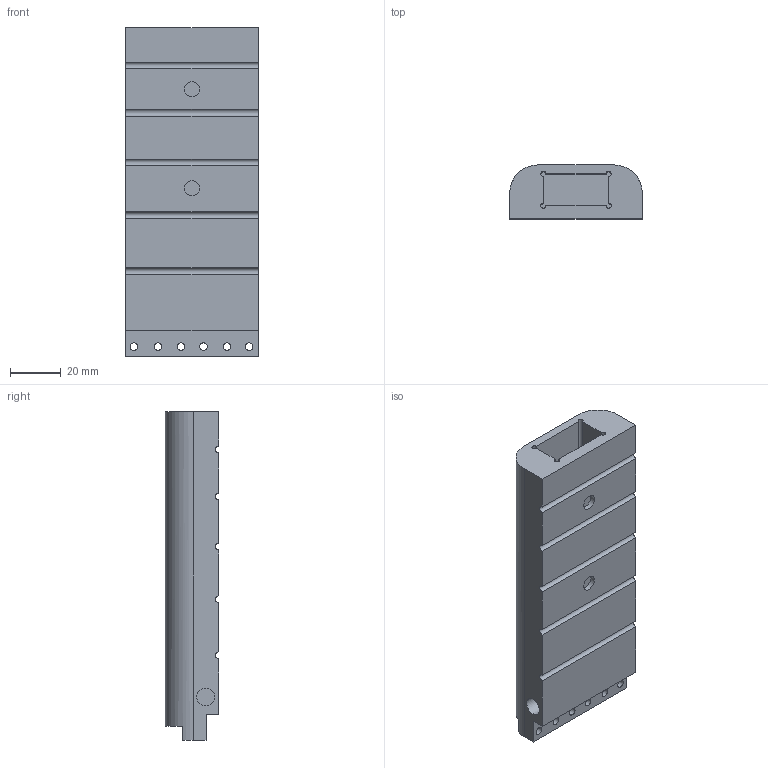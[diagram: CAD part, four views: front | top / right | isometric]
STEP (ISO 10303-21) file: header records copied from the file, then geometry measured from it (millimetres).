
FILE_DESCRIPTION(('STEP AP203'), '1');
FILE_NAME('ëàä 1', '', ('UNSPECIFIED'), ('UNSPECIFIED'), 'ASCON STEP Converter 1.3', 'ASCON Math Kernel', '');
FILE_SCHEMA(('CONFIG_CONTROL_DESIGN'));
Length unit declared in the file: millimetre
Bounding box: 52 x 21 x 128.87 mm (x, y, z)
Volume: 89214.4 mm3; surface area: 30952.4 mm2
Topology: 1 solids, 1 shells, 45 faces, 114 edges, 76 vertices
Faces by surface type: plane 24, cylinder 21
Full cylindrical faces by diameter (mm): 3 x6, 6 x2, 7 x2
Entity records: 1750 total; most frequent: DIRECTION 240, CARTESIAN_POINT 226, ORIENTED_EDGE 208, EDGE_CURVE 104, AXIS2_PLACEMENT_3D 90, VERTEX_POINT 76, EDGE_LOOP 72, LINE 60
